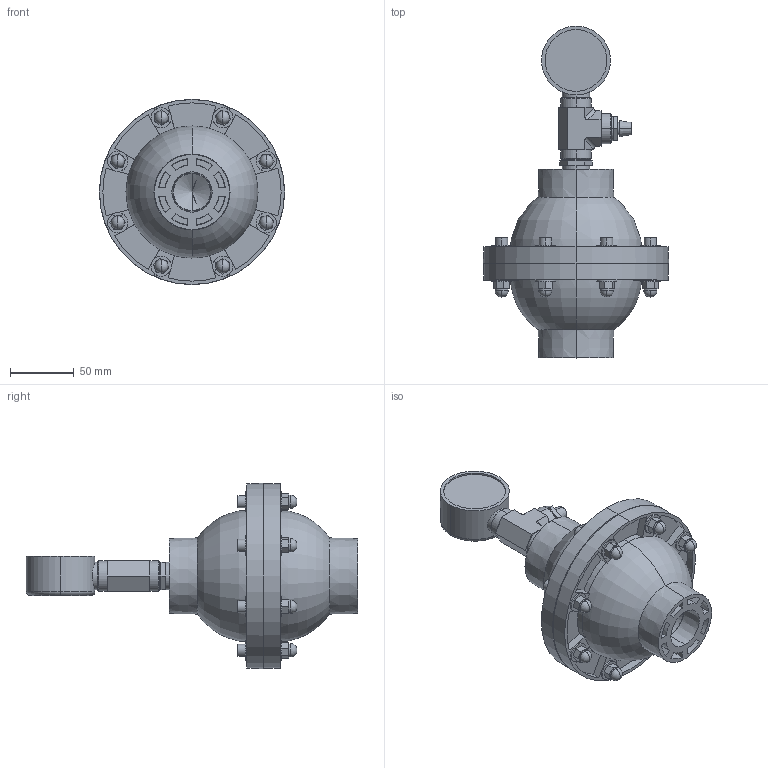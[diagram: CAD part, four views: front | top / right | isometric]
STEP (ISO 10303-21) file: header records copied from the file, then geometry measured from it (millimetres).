
FILE_DESCRIPTION (( 'STEP AP203' ), '1' );
FILE_NAME ('PD0031.STEP', '2016-01-13T10:57:43', ( '' ), ( '' ), 'SwSTEP 2.0', 'SolidWorks 2014', '' );
FILE_SCHEMA (( 'CONFIG_CONTROL_DESIGN' ));
Length unit declared in the file: inch
Products named in the file (2): PD0031
Bounding box: 144.78 x 259.33 x 144.78 mm (x, y, z)
Volume: 1059124.1 mm3; surface area: 120671.1 mm2
Topology: 1 solids, 1 shells, 552 faces, 1333 edges, 849 vertices
Faces by surface type: plane 334, cylinder 103, cone 93, torus 22
Entity records: 16496 total; most frequent: CARTESIAN_POINT 3138, DIRECTION 2877, ORIENTED_EDGE 2662, EDGE_CURVE 1331, AXIS2_PLACEMENT_3D 1064, VERTEX_POINT 849, LINE 749, VECTOR 749
